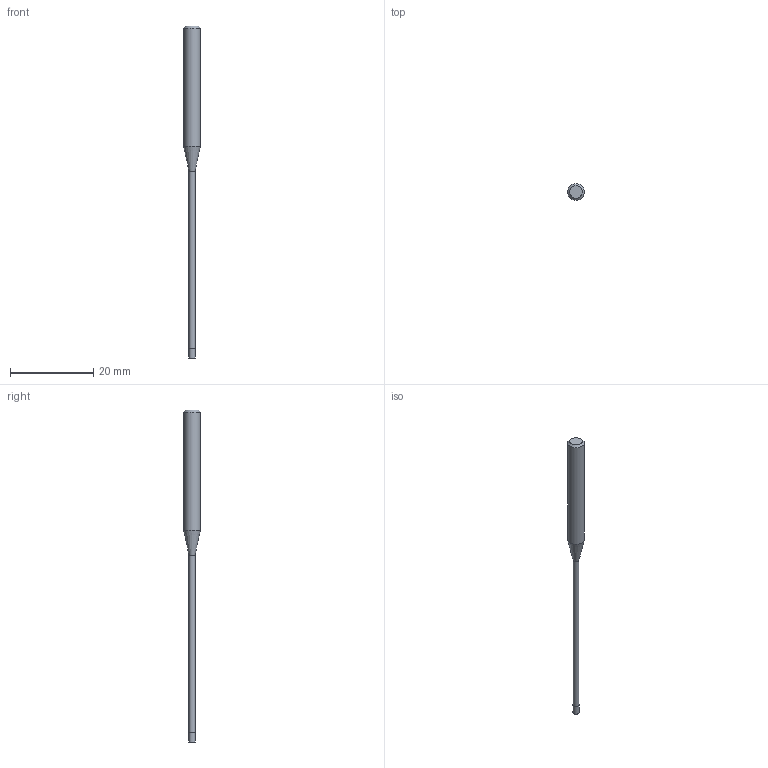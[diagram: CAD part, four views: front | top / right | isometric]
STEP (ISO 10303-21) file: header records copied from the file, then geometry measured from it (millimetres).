
FILE_DESCRIPTION((''),'2;1');
FILE_NAME('C:\Users\nsx150\AppData\Local\Temp\Mastercam 2021\17T8Q8S9EB\TEMP.step','2021-04-21T14:26:58',(''),(''),'STEP Write','Mastercam 2021 ... CNC Software, Inc.','');
FILE_SCHEMA(('AUTOMOTIVE_DESIGN'));
Length unit declared in the file: millimetre
Products named in the file (1): None
Bounding box: 4 x 4 x 80 mm (x, y, z)
Volume: 475.1 mm3; surface area: 636 mm2
Topology: 2 solids, 2 shells, 9 faces, 12 edges, 7 vertices
Faces by surface type: plane 4, cylinder 3, cone 2
Full cylindrical faces by diameter (mm): 1.45 x1, 1.5 x1, 4 x1
Entity records: 211 total; most frequent: DIRECTION 36, CARTESIAN_POINT 25, AXIS2_PLACEMENT_3D 18, ORIENTED_EDGE 14, EDGE_LOOP 14, STYLED_ITEM 12, ADVANCED_FACE 9, FACE_BOUND 8
